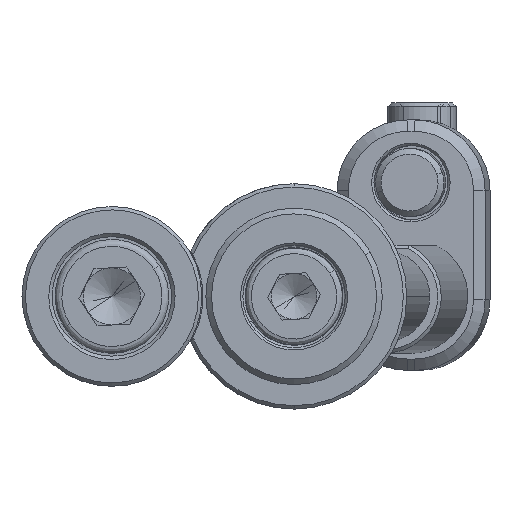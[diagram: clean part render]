
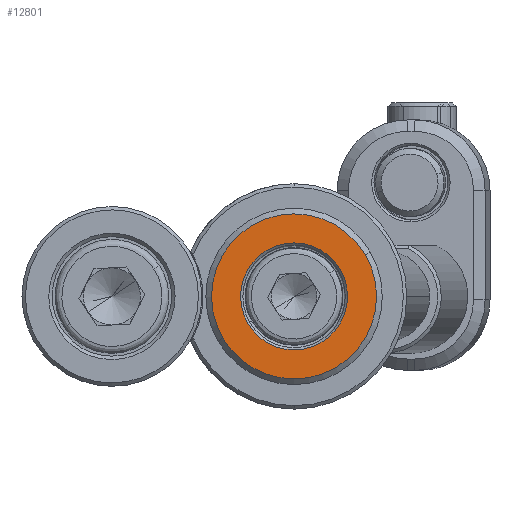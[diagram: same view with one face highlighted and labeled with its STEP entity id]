
A CAD part, front view. The second image highlights one B-rep face of the part: STEP entity #12801.
In plain terms, the highlighted planar face has unit normal (0, -1, 0).
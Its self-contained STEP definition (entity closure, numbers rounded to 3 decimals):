
#442 = CARTESIAN_POINT ( 'NONE',  ( 6.268, -4., 3.643 ) ) ;
#533 = DIRECTION ( 'NONE',  ( 0., -1., 0. ) ) ;
#722 = DIRECTION ( 'NONE',  ( 0., 1., 0. ) ) ;
#943 = CARTESIAN_POINT ( 'NONE',  ( -4.063, -4., -2.362 ) ) ;
#960 = PLANE ( 'NONE',  #10388 ) ;
#1165 = CARTESIAN_POINT ( 'NONE',  ( -6.268, -4., -3.643 ) ) ;
#1203 = DIRECTION ( 'NONE',  ( -0.865, 0., -0.503 ) ) ;
#1560 = DIRECTION ( 'NONE',  ( -0.865, 0., -0.503 ) ) ;
#1750 = AXIS2_PLACEMENT_3D ( 'NONE', #13721, #533, #5947 ) ;
#1781 = CARTESIAN_POINT ( 'NONE',  ( 0., -4., 0. ) ) ;
#1788 = AXIS2_PLACEMENT_3D ( 'NONE', #12098, #13254, #1203 ) ;
#2098 = ORIENTED_EDGE ( 'NONE', *, *, #6412, .T. ) ;
#2553 = EDGE_LOOP ( 'NONE', ( #10179, #2098 ) ) ;
#3642 = CIRCLE ( 'NONE', #1788, 7.25 ) ;
#4693 = CARTESIAN_POINT ( 'NONE',  ( 0., -4., 0. ) ) ;
#4949 = AXIS2_PLACEMENT_3D ( 'NONE', #4693, #7922, #8810 ) ;
#5150 = EDGE_CURVE ( 'NONE', #10410, #5450, #10027, .T. ) ;
#5450 = VERTEX_POINT ( 'NONE', #12310 ) ;
#5947 = DIRECTION ( 'NONE',  ( -0.865, 0., -0.503 ) ) ;
#6276 = ORIENTED_EDGE ( 'NONE', *, *, #6783, .T. ) ;
#6391 = FACE_BOUND ( 'NONE', #11731, .T. ) ;
#6412 = EDGE_CURVE ( 'NONE', #8792, #13691, #7490, .T. ) ;
#6783 = EDGE_CURVE ( 'NONE', #5450, #10410, #8898, .T. ) ;
#6871 = CARTESIAN_POINT ( 'NONE',  ( 2.261, -4., -3.891 ) ) ;
#7168 = EDGE_CURVE ( 'NONE', #13691, #8792, #3642, .T. ) ;
#7490 = CIRCLE ( 'NONE', #1750, 7.25 ) ;
#7922 = DIRECTION ( 'NONE',  ( 0., 1., 0. ) ) ;
#8599 = ORIENTED_EDGE ( 'NONE', *, *, #5150, .T. ) ;
#8792 = VERTEX_POINT ( 'NONE', #442 ) ;
#8810 = DIRECTION ( 'NONE',  ( -0.865, 0., -0.503 ) ) ;
#8898 = CIRCLE ( 'NONE', #10502, 4.7 ) ;
#9117 = DIRECTION ( 'NONE',  ( 0., 1., 0. ) ) ;
#10027 = CIRCLE ( 'NONE', #4949, 4.7 ) ;
#10179 = ORIENTED_EDGE ( 'NONE', *, *, #7168, .T. ) ;
#10388 = AXIS2_PLACEMENT_3D ( 'NONE', #6871, #9117, #1560 ) ;
#10410 = VERTEX_POINT ( 'NONE', #943 ) ;
#10502 = AXIS2_PLACEMENT_3D ( 'NONE', #1781, #722, #10627 ) ;
#10627 = DIRECTION ( 'NONE',  ( -0.865, 0., -0.503 ) ) ;
#11731 = EDGE_LOOP ( 'NONE', ( #6276, #8599 ) ) ;
#12098 = CARTESIAN_POINT ( 'NONE',  ( 0., -4., 0. ) ) ;
#12310 = CARTESIAN_POINT ( 'NONE',  ( 4.063, -4., 2.362 ) ) ;
#12801 = ADVANCED_FACE ( 'NONE', ( #6391, #13069 ), #960, .F. ) ;
#13069 = FACE_OUTER_BOUND ( 'NONE', #2553, .T. ) ;
#13254 = DIRECTION ( 'NONE',  ( 0., -1., 0. ) ) ;
#13691 = VERTEX_POINT ( 'NONE', #1165 ) ;
#13721 = CARTESIAN_POINT ( 'NONE',  ( 0., -4., 0. ) ) ;
